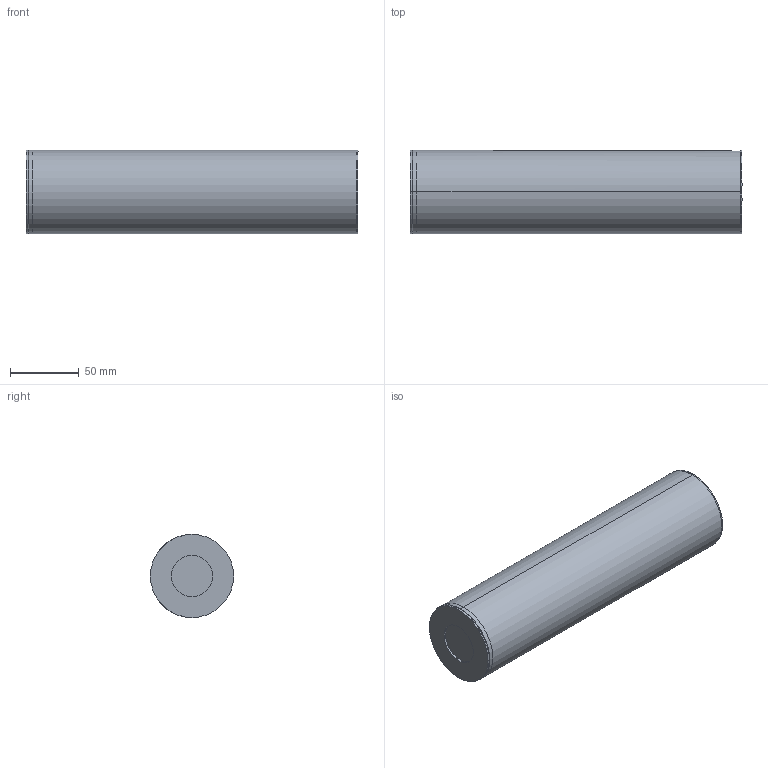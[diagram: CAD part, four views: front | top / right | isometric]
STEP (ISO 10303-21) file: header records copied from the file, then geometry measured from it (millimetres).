
FILE_DESCRIPTION (( 'STEP AP214' ), '1' );
FILE_NAME ('MVBE-19.STEP', '2016-08-05T13:22:47', ( '' ), ( '' ), 'SwSTEP 2.0', 'SolidWorks 2016', '' );
FILE_SCHEMA (( 'AUTOMOTIVE_DESIGN' ));
Length unit declared in the file: inch
Products named in the file (1): MVBE-19
Bounding box: 241 x 60.33 x 60.33 mm (x, y, z)
Surface area: 101093.9 mm2 (no closed solid volume)
Topology: 0 solids, 2 shells, 48 faces, 130 edges, 84 vertices
Faces by surface type: cylinder 20, plane 18, cone 10
Entity records: 2176 total; most frequent: CARTESIAN_POINT 818, DIRECTION 270, ORIENTED_EDGE 252, EDGE_CURVE 130, AXIS2_PLACEMENT_3D 109, VERTEX_POINT 84, CIRCLE 60, EDGE_LOOP 56
